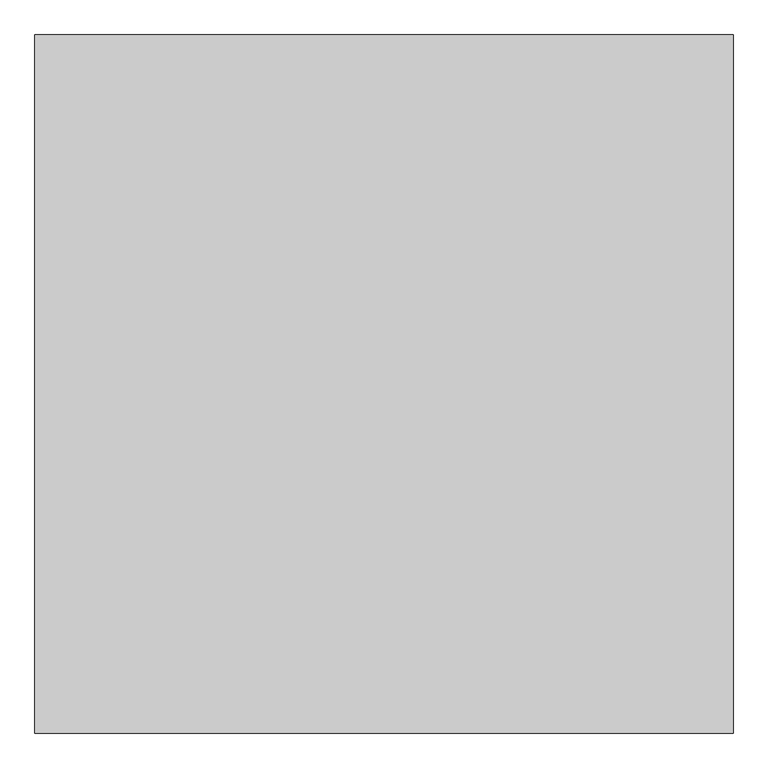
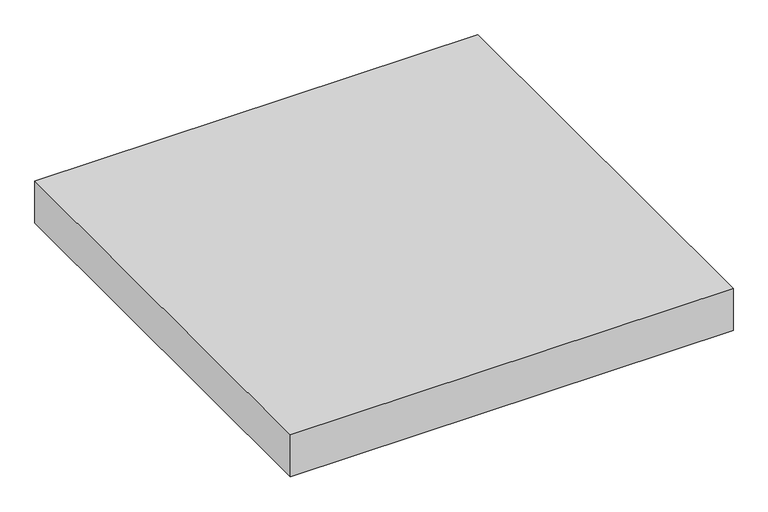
"""IFC4 building model written with IfcOpenShell, lengths in millimetres: proxy geometry, Modelos genéricos 17 : Modelos genéricos 1."""

from ifc_helpers import new_model, si_unit, origin, origin_with_axes, place, context, project, spatial, polyline, outline, extrude, source, transform, mapped, element, save


def generic_models_6202fbd5(model_context):
    return source(origin(), model_context, "Body", "SweptSolid", [
        extrude(outline(polyline([(-3422.6026359, -1045.712814), (-3422.6026359, -2545.712814), (-4922.6026359, -2545.712814), (-4922.6026359, -1045.712814), (-3422.6026359, -1045.712814)])), origin_with_axes(), (0.0, 0.0, 1.0), 150.0),
    ])


if __name__ == "__main__":
    model = new_model("IFC4")
    model_context = context("Model", 3, world=origin())
    ifc_project = project(units=[si_unit("LENGTHUNIT", "METRE", prefix="MILLI")], contexts=[model_context])
    site = spatial("IfcSite", under=ifc_project)
    building = spatial("IfcBuilding", under=site)
    placement = place(None, origin())
    generic_models_shape = generic_models_6202fbd5(model_context)
    element("IfcBuildingElementProxy", 1, Name="Modelos genéricos 17 : Modelos genéricos 1", ObjectType="Modelos genéricos 17 : Modelos genéricos 1", at=placement, inside=building, context=model_context, shape_type="MappedRepresentation", body=[
        mapped(generic_models_shape, transform((0.0, 0.0, 0.0), x_axis=(1.0, 0.0, 0.0), y_axis=(0.0, 1.0, 0.0), z_axis=(0.0, 0.0, 1.0))),
    ])
    save(model, "model.ifc")
